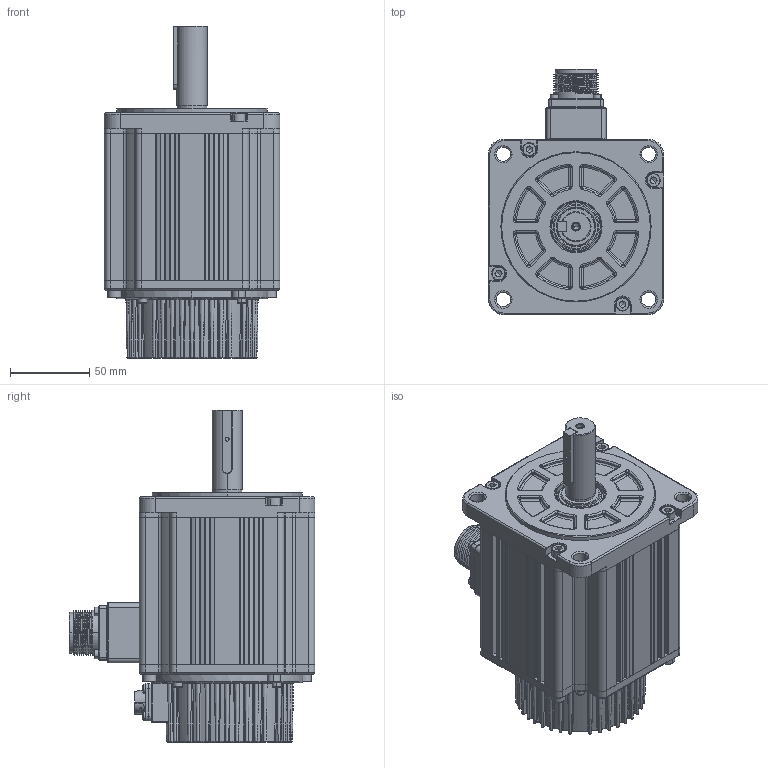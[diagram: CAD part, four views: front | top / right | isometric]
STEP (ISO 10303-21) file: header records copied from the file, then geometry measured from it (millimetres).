
FILE_DESCRIPTION (( 'STEP AP214' ), '1' );
FILE_NAME ('93酗儂褲 拸价陬.STEP', '2021-08-10T10:50:26', ( '' ), ( '' ), 'SwSTEP 2.0', 'SolidWorks 2014', '' );
FILE_SCHEMA (( 'AUTOMOTIVE_DESIGN' ));
Length unit declared in the file: millimetre
Products named in the file (16): 普通型 平键   C 6x6x40 带M3起键螺钉孔-1; 110#隅赽郪璃; 蚐猾 D00B999YF9-TC 25-32-4-110#; 110#ヶ傷裔; 93酗儂褲 拸价陬; 110#綴傷裔; SC晤鎢ん欶200908_9郋; 坋趼羞攫芛蹟隊M3℅8; 110#陔粣-拸价陬; SC瑤諾脣芛 CMS3102A18-10P-Z; 囀鞠褒 M3X10; 雄薯瑤脣釱200909; 囀鞠褒 M3X30; 囀鞠褒 ISO 4762 M5 x 18; 瑤諾脣芛 SC-CMV1-R10P-1; 110#儂褲
Assembly tree (31 placements, depth 3):
  93酗儂褲 拸价陬
    110#隅赽郪璃
      110#儂褲
      SC瑤諾脣芛 CMS3102A18-10P-Z
      雄薯瑤脣釱200909
      110#ヶ傷裔
    蚐猾 D00B999YF9-TC 25-32-4-110#
    110#陔粣-拸价陬
    普通型 平键   C 6x6x40 带M3起键螺钉孔-1
    110#綴傷裔
    瑤諾脣芛 SC-CMV1-R10P-1
    SC晤鎢ん欶200908_9郋
    囀鞠褒 M3X30  x4
    囀鞠褒 M3X10  x4
    坋趼羞攫芛蹟隊M3℅8  x4
    囀鞠褒 ISO 4762 M5 x 18  x8
Bounding box: 111 x 155.4 x 210 mm (x, y, z)
Volume: 544872.7 mm3; surface area: 234989 mm2
Topology: 31 solids, 31 shells, 2989 faces, 7083 edges, 4085 vertices
Faces by surface type: cylinder 1036, plane 707, torus 497, bspline 297, cone 253, sphere 199
Entity records: 87758 total; most frequent: CARTESIAN_POINT 25719, DIRECTION 12899, ORIENTED_EDGE 11876, EDGE_CURVE 5938, AXIS2_PLACEMENT_3D 5454, VERTEX_POINT 3493, CIRCLE 3098, EDGE_LOOP 2759
